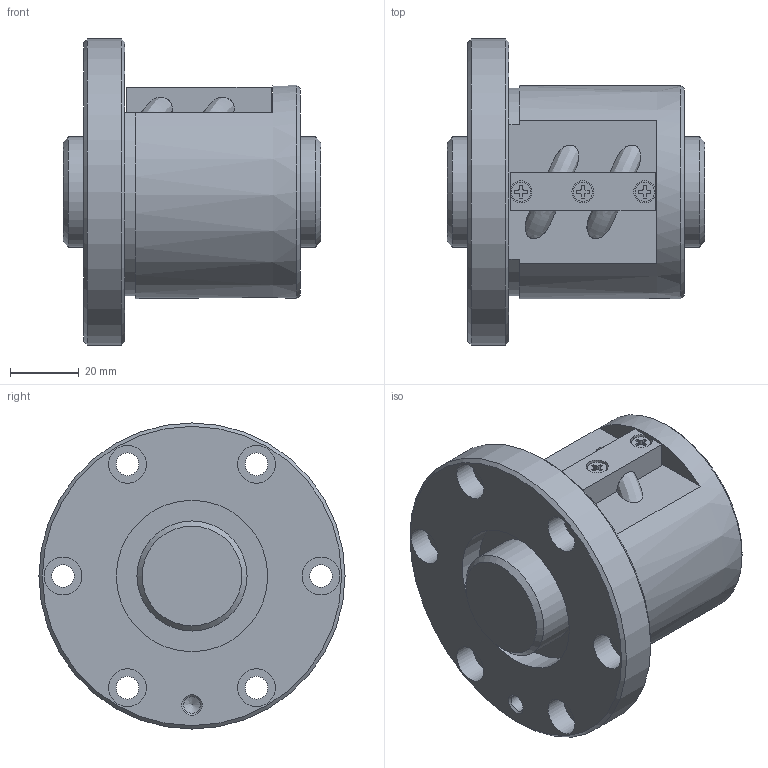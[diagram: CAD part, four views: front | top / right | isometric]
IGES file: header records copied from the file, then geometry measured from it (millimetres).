
Start section: Data from Parasolid IGES Translator 26.0.171, Copyright(c) 2006 Siemens PLM Software. All Rights Reserved.
Global section: file name: SBN3206V-5G0+75LC0(0000).igs; native system: By Siemens PLM Incorporated; preprocessor: XPlus GENERIC/IGES 26.0.171; author: Noname; organization: Noname; date: 20240528.104458; units: millimetre
Bounding box: 75 x 89 x 89 mm (x, y, z)
Surface area: 42917.6 mm2 (no closed solid volume)
Topology: 0 solids, 0 shells, 124 faces, 595 edges, 548 vertices
Faces by surface type: extrusion 69, revolution 55
